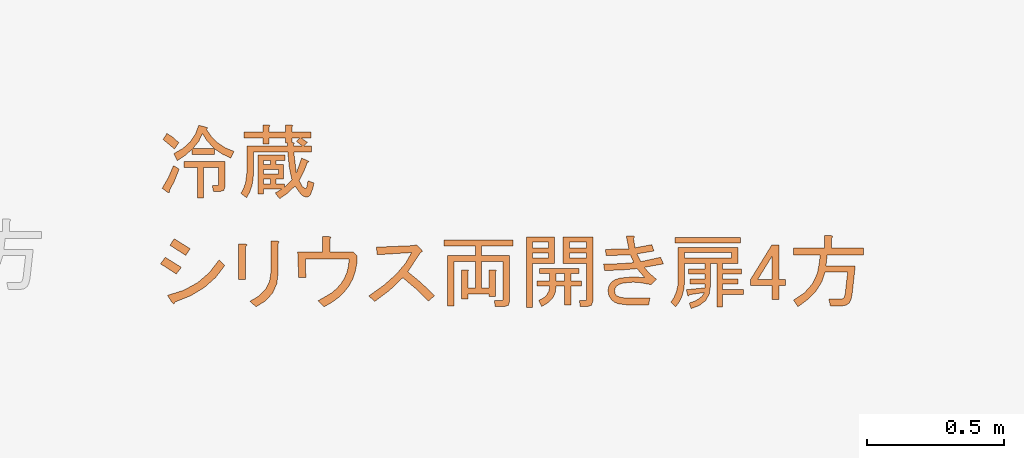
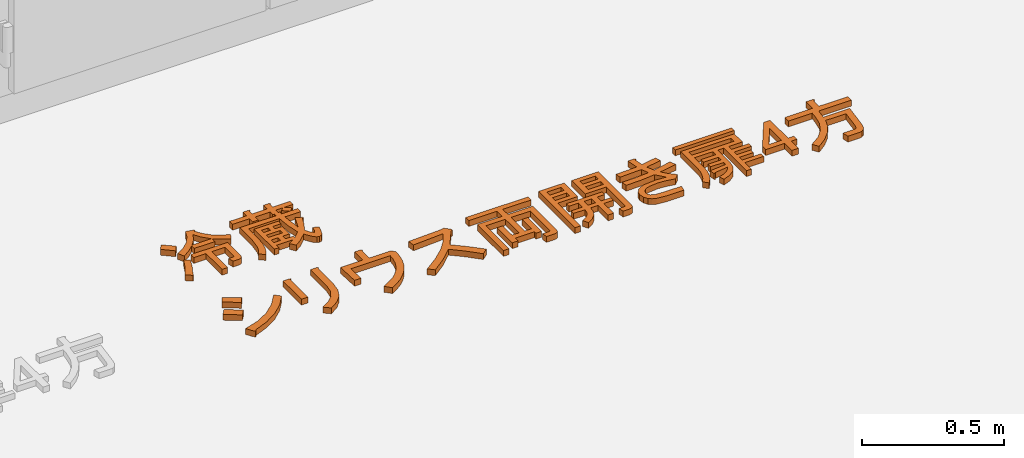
# One storey, part 12 of 16: 1 proxy.
"""IFC2X3 building model written with IfcOpenShell, lengths in millimetres."""

from ifc_helpers import new_model, entity, si_unit, converted_unit, derived_unit, direction, frame, frame_2d, origin, place, context, subcontext, project, spatial, polyline, rectangle, outline, extrude, type_object, element, save


model = new_model("IFC2X3")

# Units and contexts
model_context = context("Model", 3, precision=0.01, world=origin(), true_north=direction((6.123031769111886e-17, 1.0)))
body_context = subcontext(model_context, "Body", "Model", "MODEL_VIEW")
ifc_project = project(units=[si_unit("LENGTHUNIT", "METRE", prefix="MILLI"), si_unit("AREAUNIT", "SQUARE_METRE"), si_unit("VOLUMEUNIT", "CUBIC_METRE"), converted_unit("PLANEANGLEUNIT", "DEGREE", entity("IfcRatioMeasure", 0.017453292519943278), si_unit("PLANEANGLEUNIT", "RADIAN"), dimensions=[0, 0, 0, 0, 0, 0, 0]), si_unit("MASSUNIT", "GRAM", prefix="KILO"), derived_unit("MASSDENSITYUNIT", [(si_unit("MASSUNIT", "GRAM", prefix="KILO"), 1), (si_unit("LENGTHUNIT", "METRE"), -3)]), derived_unit("IONCONCENTRATIONUNIT", [(si_unit("MASSUNIT", "GRAM", prefix="KILO"), 1), (si_unit("LENGTHUNIT", "METRE"), -3)]), derived_unit("MOMENTOFINERTIAUNIT", [(si_unit("LENGTHUNIT", "METRE"), 4)]), si_unit("TIMEUNIT", "SECOND"), si_unit("FREQUENCYUNIT", "HERTZ"), si_unit("THERMODYNAMICTEMPERATUREUNIT", "DEGREE_CELSIUS"), derived_unit("THERMALTRANSMITTANCEUNIT", [(si_unit("MASSUNIT", "GRAM", prefix="KILO"), 1), (si_unit("THERMODYNAMICTEMPERATUREUNIT", "KELVIN"), -1), (si_unit("TIMEUNIT", "SECOND"), -3)]), derived_unit("THERMALCONDUCTANCEUNIT", [(si_unit("MASSUNIT", "GRAM", prefix="KILO"), 1), (si_unit("THERMODYNAMICTEMPERATUREUNIT", "KELVIN"), -1), (si_unit("TIMEUNIT", "SECOND"), -3), (si_unit("LENGTHUNIT", "METRE"), 1)]), derived_unit("VOLUMETRICFLOWRATEUNIT", [(si_unit("LENGTHUNIT", "METRE"), 3), (si_unit("TIMEUNIT", "SECOND"), -1)]), derived_unit("MASSFLOWRATEUNIT", [(si_unit("MASSUNIT", "GRAM", prefix="KILO"), 1), (si_unit("TIMEUNIT", "SECOND"), -1)]), derived_unit("ROTATIONALFREQUENCYUNIT", [(si_unit("TIMEUNIT", "SECOND"), -1)]), si_unit("ELECTRICCURRENTUNIT", "AMPERE"), si_unit("ELECTRICVOLTAGEUNIT", "VOLT"), si_unit("POWERUNIT", "WATT"), si_unit("FORCEUNIT", "NEWTON", prefix="KILO"), si_unit("ILLUMINANCEUNIT", "LUX"), si_unit("LUMINOUSFLUXUNIT", "LUMEN"), si_unit("LUMINOUSINTENSITYUNIT", "CANDELA"), derived_unit("USERDEFINED", [(si_unit("MASSUNIT", "GRAM", prefix="KILO"), -1), (si_unit("LENGTHUNIT", "METRE"), -2), (si_unit("TIMEUNIT", "SECOND"), 3), (si_unit("LUMINOUSFLUXUNIT", "LUMEN"), 1)]), derived_unit("USERDEFINED", [(si_unit("MASSUNIT", "GRAM", prefix="KILO"), 1), (si_unit("TIMEUNIT", "SECOND"), -3), (si_unit("LENGTHUNIT", "METRE"), 3), (si_unit("ELECTRICCURRENTUNIT", "AMPERE"), -2)]), derived_unit("SOUNDPOWERUNIT", [(si_unit("MASSUNIT", "GRAM", prefix="KILO"), 1), (si_unit("TIMEUNIT", "SECOND"), -3), (si_unit("LENGTHUNIT", "METRE"), 2)]), derived_unit("SOUNDPRESSUREUNIT", [(si_unit("MASSUNIT", "GRAM", prefix="KILO"), 1), (si_unit("LENGTHUNIT", "METRE"), -1), (si_unit("TIMEUNIT", "SECOND"), -2)]), derived_unit("LINEARVELOCITYUNIT", [(si_unit("LENGTHUNIT", "METRE"), 1), (si_unit("TIMEUNIT", "SECOND"), -1)]), si_unit("PRESSUREUNIT", "PASCAL"), derived_unit("USERDEFINED", [(si_unit("MASSUNIT", "GRAM", prefix="KILO"), 1), (si_unit("LENGTHUNIT", "METRE"), -2), (si_unit("TIMEUNIT", "SECOND"), -2)]), derived_unit("LINEARFORCEUNIT", [(si_unit("MASSUNIT", "GRAM", prefix="KILO"), 1), (si_unit("TIMEUNIT", "SECOND"), -2)]), derived_unit("PLANARFORCEUNIT", [(si_unit("MASSUNIT", "GRAM", prefix="KILO"), 1), (si_unit("LENGTHUNIT", "METRE"), -1), (si_unit("TIMEUNIT", "SECOND"), -2)]), derived_unit("SPECIFICHEATCAPACITYUNIT", [(si_unit("THERMODYNAMICTEMPERATUREUNIT", "KELVIN"), -1), (si_unit("LENGTHUNIT", "METRE"), 2), (si_unit("TIMEUNIT", "SECOND"), -2)]), derived_unit("HEATINGVALUEUNIT", [(si_unit("LENGTHUNIT", "METRE"), 2), (si_unit("TIMEUNIT", "SECOND"), -2)]), derived_unit("VAPORPERMEABILITYUNIT", [(si_unit("LENGTHUNIT", "METRE"), -1), (si_unit("TIMEUNIT", "SECOND"), 1)]), derived_unit("DYNAMICVISCOSITYUNIT", [(si_unit("MASSUNIT", "GRAM", prefix="KILO"), 1), (si_unit("TIMEUNIT", "SECOND"), -1), (si_unit("LENGTHUNIT", "METRE"), -1)]), derived_unit("THERMALEXPANSIONCOEFFICIENTUNIT", [(si_unit("THERMODYNAMICTEMPERATUREUNIT", "KELVIN"), -1)]), derived_unit("MODULUSOFELASTICITYUNIT", [(si_unit("MASSUNIT", "GRAM", prefix="KILO"), 1), (si_unit("LENGTHUNIT", "METRE"), -1), (si_unit("TIMEUNIT", "SECOND"), -2)]), derived_unit("ISOTHERMALMOISTURECAPACITYUNIT", [(si_unit("LENGTHUNIT", "METRE"), 3), (si_unit("MASSUNIT", "GRAM", prefix="KILO"), -1)]), derived_unit("MOISTUREDIFFUSIVITYUNIT", [(si_unit("TIMEUNIT", "SECOND"), -1), (si_unit("LENGTHUNIT", "METRE"), 2)])], contexts=[model_context])

# Site, building, storey
site_placement = place(None, origin())
site = spatial("IfcSite", under=ifc_project, at=site_placement, Name="Default", CompositionType="ELEMENT")
building_placement = place(site_placement, origin())
building = spatial("IfcBuilding", under=site, at=building_placement, CompositionType="ELEMENT")
storey_placement = place(building_placement, frame((0.0, 0.0, 500.0)))
storey = spatial("IfcBuildingStorey", under=building, at=storey_placement, Name="レベル 1", CompositionType="ELEMENT", Elevation=500.00000000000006)

# Proxy
building_element_proxy_type = type_object("IfcBuildingElementProxyType", Name="立体文字:200㎜\u3000MS Pゴシック", PredefinedType="NOTDEFINED")
proxy_placement = place(storey_placement, origin())
element("IfcBuildingElementProxy", 1, at=proxy_placement, inside=storey, type_object=building_element_proxy_type, Name="立体文字:200㎜\u3000MS Pゴシック", ObjectType="立体文字:200㎜\u3000MS Pゴシック", context=body_context, shape_type="SweptSolid", body=[
    extrude(outline(polyline([(-12.692928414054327, -26.506046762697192), (13.137935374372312, -26.506046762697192), (20.196666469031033, 26.894788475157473), (-7.833657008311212, 28.224694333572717), (-12.808016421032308, -2.107389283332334), (-12.692928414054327, -26.506046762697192)])), frame((-6026.052503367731, 18997.18463860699, 0.0), z_axis=(0.0, 0.0, 1.0), x_axis=(-0.5339929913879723, -0.8454889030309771, 0.0)), (0.0, 0.0, 1.0), 24.99999999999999),
    extrude(outline(polyline([(-86.15242915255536, -7.393505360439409), (-75.807303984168, -7.393505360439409), (-75.807303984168, 24.791328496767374), (-57.41597035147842, 24.791328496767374), (-57.41597035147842, -3.9451303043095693), (-4.540886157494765, -3.9451303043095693), (-4.540886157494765, 24.791328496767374), (11.551530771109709, 24.791328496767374), (11.551530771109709, -8.542963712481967), (29.942864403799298, -8.542963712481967), (29.942864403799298, 90.31045456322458), (-111.44051289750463, 90.31045456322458), (-111.44051289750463, 70.76966257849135), (-94.1986376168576, 70.76966257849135), (-94.1986376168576, 4.101078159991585), (-107.99213784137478, 27.09024520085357), (-128.6823881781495, 10.99782827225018), (-110.2910545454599, -15.727078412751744), (-82.70405409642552, -45.325630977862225), (-112.87733583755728, -66.5906104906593), (-120.42065627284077, -76.7920533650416), (-122.93509641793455, -86.7061316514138), (-120.77986200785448, -94.68049896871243), (-114.3141587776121, -101.36172563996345), (-88.45134585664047, -110.84475704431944), (-71.20947057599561, -114.29313210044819), (-63.16326211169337, -92.45342341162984), (-78.10622068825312, -90.15450670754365), (-88.45134585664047, -87.28086082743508), (-91.89972091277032, -83.25775659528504), (-84.71560621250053, -72.33790225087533), (-63.16326211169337, -60.26858955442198), (-30.40369907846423, -76.93573565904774), (3.5053223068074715, -90.15450670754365), (5.5168744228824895, -95.9017984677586), (9.252614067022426, -92.45342341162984), (19.59773923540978, -69.46425637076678), (-35.576261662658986, -49.923464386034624), (41.43744792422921, -40.727797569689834), (41.43744792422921, -105.0974652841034), (63.27715661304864, -105.0974652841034), (63.27715661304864, -76.36100648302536), (77.07065683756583, -90.15450670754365), (93.1630737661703, -67.16533966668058), (93.1630737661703, -103.94800693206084), (115.00278245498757, -103.94800693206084), (115.00278245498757, -33.83104745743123), (133.39411608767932, -33.83104745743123), (137.99194949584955, -37.56678710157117), (140.29086619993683, -32.681589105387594), (140.29086619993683, -10.841880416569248), (115.00278245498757, -10.841880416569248), (115.00278245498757, 48.929953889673), (133.39411608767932, 48.929953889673), (137.99194949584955, 45.19421424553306), (140.29086619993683, 50.07941224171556), (140.29086619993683, 71.91912093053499), (115.00278245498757, 71.91912093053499), (115.00278245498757, 140.88662205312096), (93.1630737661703, 140.88662205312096), (93.1630737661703, 71.91912093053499), (71.32336507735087, 71.91912093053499), (71.32336507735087, 48.929953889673), (93.1630737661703, 48.929953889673), (93.1630737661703, -10.841880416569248), (74.77174013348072, -10.841880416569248), (74.77174013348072, -17.738630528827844), (63.27715661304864, -17.738630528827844), (63.27715661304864, 129.39203853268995), (-24.081678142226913, 129.39203853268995), (-70.63474139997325, 135.13933029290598), (-90.89394485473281, 142.32344499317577), (-109.14159619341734, 152.38120557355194), (-125.23401312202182, 131.69095523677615), (-105.26217425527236, 120.62741859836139), (-83.27878327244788, 112.72489242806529), (-59.283840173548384, 107.98337672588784), (-33.27734495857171, 106.40287149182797), (41.43744792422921, 106.40287149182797), (41.43744792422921, -18.888088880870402), (-12.01236544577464, -23.77328687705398), (-59.71488705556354, -33.83104745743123), (-86.15242915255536, -7.393505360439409)]), holes=[polyline([(75.92119848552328, -38.42888086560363), (75.92119848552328, -33.83104745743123), (93.1630737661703, -33.83104745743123), (93.1630737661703, -62.567506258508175), (80.51903189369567, -49.923464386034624), (63.27715661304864, -72.91263142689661), (63.27715661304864, -39.57833921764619), (70.17390672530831, -39.57833921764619), (73.3349171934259, -43.31407886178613), (75.92119848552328, -38.42888086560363)]), polyline([(-4.540886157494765, 70.76966257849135), (11.551530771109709, 70.76966257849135), (11.551530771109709, 44.3321204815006), (-4.540886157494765, 44.3321204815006), (-4.540886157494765, 70.76966257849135)]), polyline([(-39.02463671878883, 70.76966257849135), (-22.932219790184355, 70.76966257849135), (-22.932219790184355, 15.595661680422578), (-39.02463671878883, 15.595661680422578), (-39.02463671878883, 70.76966257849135)]), polyline([(-75.807303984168, 70.76966257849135), (-57.41597035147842, 70.76966257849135), (-57.41597035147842, 44.3321204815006), (-75.807303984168, 44.3321204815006), (-75.807303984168, 70.76966257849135)])]), frame((-5619.181218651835, 18912.81492123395, 0.0), z_axis=(0.0, 0.0, 1.0), x_axis=(0.0, 1.0, 0.0)), (0.0, 0.0, 1.0), 25.0),
    extrude(outline(polyline([(-14.55545014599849, -34.35830877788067), (13.834076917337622, -34.35830877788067), (14.857961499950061, 33.86963659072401), (-14.136588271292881, 34.846980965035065), (-14.55545014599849, -34.35830877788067)])), frame((-5993.695250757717, 18607.70218252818, 0.0), z_axis=(0.0, 0.0, 1.0), x_axis=(-0.5263546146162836, -0.8502651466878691, 0.0)), (0.0, 0.0, 1.0), 25.0),
    extrude(outline(polyline([(-84.58097707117, 8.189890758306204), (-84.58097707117, -18.24765133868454), (45.307816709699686, -18.24765133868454), (45.307816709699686, 7.040432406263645), (42.43417082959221, 13.075088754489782), (36.112149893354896, 8.189890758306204), (-84.58097707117, 8.189890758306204)])), frame((-5762.050656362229, 18573.31422016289, 0.0), z_axis=(0.0, 0.0, -1.0), x_axis=(0.0, 1.0, 0.0)), (0.0, 0.0, -1.0), 25.0),
    extrude(outline(polyline([(-11.477428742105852, -36.07605005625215), (15.650762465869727, -36.07605005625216), (18.548657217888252, -33.22685941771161), (15.261129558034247, -27.79635076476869), (8.868714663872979, 11.398284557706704), (-3.1003212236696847, 57.19232725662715), (-27.257561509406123, 55.09805037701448), (-16.493952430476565, 9.486648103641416), (-11.477428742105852, -36.07605005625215)])), frame((-6028.286763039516, 18844.299493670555, 0.0), z_axis=(0.0, 0.0, 1.0), x_axis=(0.805055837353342, -0.5931990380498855, 0.0)), (0.0, 0.0, 1.0), 24.99999999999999),
    extrude(outline(polyline([(-21.439239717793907, -112.61303631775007), (6.8336974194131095, -112.61303631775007), (2.5927568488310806, -77.40037824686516), (-6.017637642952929, -45.786093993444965), (10.4320712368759, -54.01094843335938), (47.44391621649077, 20.01274152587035), (29.966100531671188, 28.75164936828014), (60.937818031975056, 46.35797840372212), (85.99792140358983, 66.27754775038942), (69.54821252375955, 87.35373725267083), (43.46000234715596, 64.89602923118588), (15.05855185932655, 48.41419201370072), (-15.656138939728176, 37.90822560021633), (-48.684070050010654, 33.378129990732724), (-48.2985299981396, 38.64717736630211), (-52.28244386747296, 39.03271741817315), (-73.35863336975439, 14.872207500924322), (-49.680048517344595, -10.059382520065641), (-33.13395462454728, -39.61745316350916), (-23.72035169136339, -73.80200442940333), (-21.439239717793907, -112.61303631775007)]), holes=[polyline([(26.881780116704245, 27.72354256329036), (-7.559797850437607, -41.15961337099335), (-20.66815961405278, -11.473029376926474), (-40.45921561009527, 13.844100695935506), (-9.230471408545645, 16.54288105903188), (26.881780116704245, 27.72354256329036)])]), frame((-5906.0849719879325, 18979.69131931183, 0.0), z_axis=(0.0, 0.0, 1.0), x_axis=(0.447213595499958, -0.894427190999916, 0.0)), (0.0, 0.0, 1.0), 24.999999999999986),
    extrude(outline(polyline([(-95.80016952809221, -47.900084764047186), (-95.80016952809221, -69.73979345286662), (53.62941623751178, -69.73979345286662), (53.62941623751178, 24.51579141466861), (49.606312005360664, 35.723010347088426), (37.53699930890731, 39.458749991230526), (12.248915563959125, 39.458749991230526), (7.651082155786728, 17.619041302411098), (26.042415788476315, 17.619041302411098), (29.490790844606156, 16.469582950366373), (30.640249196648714, 13.0212078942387), (30.640249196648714, -47.900084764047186), (-23.384293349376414, -47.900084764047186), (-23.384293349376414, 63.59737538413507), (-46.37346039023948, 63.59737538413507), (-46.37346039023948, -47.900084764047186), (-95.80016952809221, -47.900084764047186)])), frame((-5883.814216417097, 18850.028825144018, 0.0), z_axis=(0.0, 0.0, -1.0), x_axis=(1.0, 0.0, 0.0)), (0.0, 0.0, -1.0), 24.99999999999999),
    extrude(outline(polyline([(-24.760861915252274, -100.93244714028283), (5.213344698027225, -100.93244714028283), (14.007247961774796, -98.35378377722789), (10.414751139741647, -90.6177936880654), (21.875477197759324, -29.78778614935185), (23.197868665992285, 27.956641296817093), (14.381925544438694, 82.61548865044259), (-4.572352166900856, 134.18875591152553), (-33.1360078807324, 127.84127686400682), (-12.975047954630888, 72.94550103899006), (-4.858870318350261, 16.51795509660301), (-8.78747497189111, -41.441360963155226), (-24.760861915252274, -100.93244714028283)])), frame((-5940.93990180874, 18464.55869712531, 0.0), z_axis=(0.0, 0.0, 1.0), x_axis=(0.5368754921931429, -0.8436614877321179, 0.0)), (0.0, 0.0, 1.0), 25.0),
    extrude(outline(polyline([(12.171942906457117, 32.40035729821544), (-27.915417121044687, 27.37147700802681), (-61.968120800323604, 12.284836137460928), (-89.98616813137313, -12.859565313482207), (-111.96955911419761, -48.0617273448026), (-92.42876712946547, -71.05089438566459), (-72.88797514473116, -37.78844332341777), (-48.74934975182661, -13.865341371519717), (-20.012890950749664, 0.718411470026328), (13.32140125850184, 5.962815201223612), (128.26723646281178, 5.962815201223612), (128.26723646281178, 30.101440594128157), (124.81886140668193, 36.42346153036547), (119.07156964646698, 32.40035729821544), (12.171942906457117, 32.40035729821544)])), frame((-5667.866912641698, 18501.84938393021, 0.0), z_axis=(0.0, 0.0, -1.0), x_axis=(0.0, 1.0, 0.0)), (0.0, 0.0, -1.0), 25.0),
    extrude(outline(polyline([(-12.927911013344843, -34.30740209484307), (16.736132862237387, -34.30740209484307), (13.261965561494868, 33.83972572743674), (-17.07018741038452, 34.7750784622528), (-12.927911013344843, -34.30740209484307)])), frame((-6027.029542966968, 18539.88413975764, 0.0), z_axis=(0.0, 0.0, 1.0), x_axis=(-0.5812381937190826, -0.8137334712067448, 0.0)), (0.0, 0.0, 1.0), 25.0),
    extrude(outline(polyline([(-22.97401156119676, -96.89434063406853), (-3.4670564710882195, -96.89434063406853), (57.492178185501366, -35.93510597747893), (91.62934959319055, -70.07227738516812), (93.05173173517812, -77.59058299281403), (100.57003734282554, -74.13622636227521), (116.82583325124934, -57.880430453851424), (76.18634348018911, -17.240940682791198), (140.39673731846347, 46.96945315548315), (72.12239450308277, 110.36705719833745), (53.428229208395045, 91.67289190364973), (103.00840672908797, 45.34387356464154), (-9.9693748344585, -67.63390799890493), (-25.869575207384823, -48.88894334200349), (-38.21382022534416, -28.823195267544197), (-47.002109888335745, -7.436663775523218), (-52.23444419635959, 15.270651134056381), (-53.91082314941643, 39.29874946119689), (-52.031246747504, 64.6476312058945), (-37.604227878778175, 119.30774494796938), (-68.49024010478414, 119.30774494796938), (-77.20233072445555, 88.01533782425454), (-81.7996730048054, 57.94211539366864), (-82.2822669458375, 29.08807765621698), (-78.65011254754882, 1.4532246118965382), (-70.90320980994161, -24.962443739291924), (-59.04155873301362, -50.158927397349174), (-43.06515931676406, -74.13622636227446), (-22.97401156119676, -96.89434063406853)])), frame((-5431.712233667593, 18522.673053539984, 0.0), z_axis=(0.0, 0.0, 1.0), x_axis=(-0.7071067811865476, 0.7071067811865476, 0.0)), (0.0, 0.0, 1.0), 24.999999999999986),
    extrude(outline(polyline([(5.525091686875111, 11.308020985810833), (-1.6526031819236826, 74.77664998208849), (-13.95159515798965, 140.91623239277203), (-42.89874219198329, 132.4070002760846), (-29.96943672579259, 67.22864593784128), (-22.8232575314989, 7.904328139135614), (-87.34766162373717, -7.171982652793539), (-151.01326358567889, -30.371458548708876), (-146.64834266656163, -59.35012125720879), (-83.07334826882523, -34.71668217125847), (-25.486332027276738, -19.21490977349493), (26.112706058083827, -12.844804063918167), (71.72376598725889, -15.606365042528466), (-3.7090009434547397, -115.96803050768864), (17.469532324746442, -133.97923848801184), (95.39203754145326, -25.628349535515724), (105.83948364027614, -15.984553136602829), (100.54485032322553, 9.480111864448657), (96.59357263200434, 15.507484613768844), (89.37254371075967, 11.308020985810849), (5.525091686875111, 11.308020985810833)])), frame((-5174.789510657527, 18519.05020712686, 0.0), z_axis=(0.0, 0.0, -1.0), x_axis=(0.548356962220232, 0.8362443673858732, 0.0)), (0.0, 0.0, -1.0), 25.0),
    extrude(outline(polyline([(-1.5599791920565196, 115.64372063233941), (113.38585601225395, 115.64372063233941), (113.38585601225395, 137.48342932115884), (-139.4949814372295, 137.48342932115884), (-139.4949814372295, 115.64372063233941), (-24.549146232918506, 115.64372063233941), (-24.549146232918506, 80.01051171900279), (-125.70148121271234, 80.01051171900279), (-125.70148121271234, -103.90282460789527), (-102.71231417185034, -103.90282460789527), (-102.71231417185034, 58.17080303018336), (-24.549146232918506, 58.17080303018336), (-24.549146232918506, -37.23424018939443), (-52.136146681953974, -37.23424018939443), (-52.136146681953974, 21.38813576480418), (-48.400407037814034, 25.985969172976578), (-53.28560503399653, 28.284885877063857), (-75.12531372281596, 28.284885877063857), (-75.12531372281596, -78.61474086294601), (-52.136146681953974, -78.61474086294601), (-52.136146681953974, -59.073948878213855), (26.027021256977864, -59.073948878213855), (26.027021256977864, -69.41907404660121), (49.016188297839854, -69.41907404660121), (49.016188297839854, 21.38813576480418), (52.75192794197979, 25.985969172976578), (47.86672994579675, 28.284885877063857), (26.027021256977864, 28.284885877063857), (26.027021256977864, -37.23424018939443), (-1.5599791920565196, -37.23424018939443), (-1.5599791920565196, 58.17080303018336), (76.60318874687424, 58.17080303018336), (76.60318874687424, -78.61474086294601), (75.45373039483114, -82.06311591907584), (72.00535533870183, -83.2125742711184), (44.418354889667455, -83.2125742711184), (47.86672994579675, -105.05228295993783), (83.49993885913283, -105.05228295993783), (95.56925155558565, -101.02917872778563), (99.59235578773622, -88.95986603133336), (99.59235578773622, 80.01051171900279), (-1.5599791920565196, 80.01051171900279), (-1.5599791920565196, 115.64372063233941)])), frame((-4891.310502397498, 18496.081566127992, 0.0)), (0.0, 0.0, 1.0), 25.0),
    extrude(outline(polyline([(-168.70511813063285, -69.76327998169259), (-73.30007491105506, -69.76327998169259), (-73.30007491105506, -27.23332095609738), (-73.30007491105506, 15.296638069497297), (57.738177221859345, 15.296638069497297), (61.186552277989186, 14.147179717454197), (62.336010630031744, 10.698804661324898), (62.336010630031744, -11.140904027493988), (84.17571931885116, -7.692528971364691), (84.17571931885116, 19.894471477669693), (79.57788591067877, 33.687971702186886), (65.78438568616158, 38.285805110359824), (-168.70511813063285, 38.285805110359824), (-168.70511813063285, -69.76327998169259)]), holes=[polyline([(-91.69140854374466, -46.77411294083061), (-111.2322005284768, -46.77411294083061), (-111.2322005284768, 15.296638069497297), (-91.69140854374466, 15.296638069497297), (-91.69140854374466, -46.77411294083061)]), polyline([(-129.6235341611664, 15.296638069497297), (-129.6235341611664, -46.77411294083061), (-150.31378449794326, -46.77411294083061), (-150.31378449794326, 15.296638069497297), (-129.6235341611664, 15.296638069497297)])]), frame((-4525.397488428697, 18475.205002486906, 0.0), z_axis=(0.0, 0.0, 1.0), x_axis=(0.0, -1.0, 0.0)), (0.0, 0.0, 1.0), 25.0),
    extrude(outline(polyline([(-70.58116380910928, -3.907053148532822), (-70.58116380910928, -22.298386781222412), (-24.60282972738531, -22.298386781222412), (-24.60282972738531, -49.885387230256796), (-62.53495534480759, -49.885387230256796), (-62.53495534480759, -68.27672086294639), (82.29679701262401, -68.27672086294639), (82.29679701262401, -49.885387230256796), (52.410879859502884, -49.885387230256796), (52.410879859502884, -22.298386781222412), (91.49246382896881, -22.298386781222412), (91.49246382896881, -3.907053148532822), (52.410879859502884, -3.907053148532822), (52.410879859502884, 65.06044797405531), (29.4217128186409, 65.06044797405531), (29.4217128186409, -3.907053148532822), (-1.6136626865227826, -3.907053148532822), (-3.9844205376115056, 19.728684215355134), (-13.395610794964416, 40.05972881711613), (-29.847233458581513, 57.08608065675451), (-53.339288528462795, 70.80773973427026), (-64.83387204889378, 48.96803104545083), (-47.23279103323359, 40.05972881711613), (-34.66059030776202, 28.27778070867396), (-27.11726987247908, 13.622186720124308), (-24.60282972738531, -3.907053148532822), (-70.58116380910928, -3.907053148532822)]), holes=[polyline([(29.4217128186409, -22.298386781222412), (29.4217128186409, -49.885387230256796), (-1.6136626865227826, -49.885387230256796), (-1.6136626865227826, -22.298386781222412), (29.4217128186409, -22.298386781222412)])]), frame((-4619.984647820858, 18461.837022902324, 0.0), z_axis=(0.0, 0.0, -1.0), x_axis=(1.0, 0.0, 0.0)), (0.0, 0.0, -1.0), 25.0),
    extrude(outline(polyline([(21.839708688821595, -61.30444544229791), (117.24475190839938, -61.30444544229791), (117.24475190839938, 42.14680624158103), (-139.08446059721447, 42.14680624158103), (-139.08446059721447, 19.157639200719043), (21.839708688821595, 19.157639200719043), (21.839708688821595, -61.30444544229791)]), holes=[polyline([(98.85341827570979, -38.315278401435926), (78.16316793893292, -38.315278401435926), (78.16316793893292, 19.157639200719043), (98.85341827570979, 19.157639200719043), (98.85341827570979, -38.315278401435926)]), polyline([(40.23104232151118, 19.157639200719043), (59.771834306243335, 19.157639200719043), (59.771834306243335, -38.315278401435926), (40.23104232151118, -38.315278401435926), (40.23104232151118, 19.157639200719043)])]), frame((-4687.500589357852, 18526.66536870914, 0.0), z_axis=(0.0, 0.0, 1.0), x_axis=(0.0, 1.0, 0.0)), (0.0, 0.0, 1.0), 25.0),
    extrude(outline(polyline([(42.16317553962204, 67.93889097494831), (105.0901152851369, 67.93889097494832), (100.93277992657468, 91.93805418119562), (38.95068912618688, 90.61526565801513), (38.950689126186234, 125.57467662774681), (44.714267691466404, 130.44064869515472), (39.32862870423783, 134.83419628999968), (14.384616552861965, 138.9915316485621), (15.707405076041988, 90.99320523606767), (-68.57312082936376, 102.70933215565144), (-70.08487914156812, 79.65501789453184), (17.786072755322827, 68.50580034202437), (25.533834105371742, 38.081664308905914), (-27.85013129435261, 42.90039392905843), (-84.06864352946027, 51.68748911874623), (-84.63555289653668, 27.310386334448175), (-23.4093412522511, 18.853988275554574), (33.28159545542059, 14.649410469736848), (56.14693992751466, -22.955577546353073), (15.896374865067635, -12.751208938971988), (-34.79477104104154, -9.2552678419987), (-53.089408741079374, -12.39689058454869), (-66.68342293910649, -18.798242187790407), (-78.30506496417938, -30.84506623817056), (-84.06864352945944, -46.19886159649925), (-83.92691618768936, -66.32414412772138), (-76.32088217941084, -83.61487982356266), (-66.87239272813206, -93.34682395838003), (-53.6445074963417, -101.37803999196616), (-15.850549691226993, -112.33828775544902), (53.31239309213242, -123.86544488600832), (62.005003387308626, -99.67731189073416), (-7.157939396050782, -88.15015476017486), (-40.51110715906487, -80.26066606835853), (-56.668024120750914, -70.57596438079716), (-60.44741990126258, -61.78886919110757), (-60.44741990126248, -51.301045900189), (-56.998721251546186, -42.84464784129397), (-49.676141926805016, -35.616553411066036), (-39.89695534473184, -31.128520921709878), (-26.43285787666, -29.002610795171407), (11.550069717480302, -31.83715763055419), (39.23414380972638, -38.78179737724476), (74.66597925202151, -51.67898547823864), (97.15338414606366, -35.616553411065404), (75.9887677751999, -10.53081391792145), (60.11530549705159, 14.838380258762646), (131.35691595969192, 15.783229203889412), (125.12091292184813, 41.29415072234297), (51.04475562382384, 37.32578515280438), (42.16317553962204, 67.93889097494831)])), frame((-4356.607929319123, 18509.04273534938, 0.0), z_axis=(0.0, 0.0, 1.0), x_axis=(0.9863939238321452, 0.16439898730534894, 0.0)), (0.0, 0.0, 1.0), 25.0),
    extrude(rectangle(XDim=239.08733722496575, YDim=18.39133363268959, at=frame_2d((-5.400124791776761e-13, 0.0), x_axis=(1.0, 0.0))), frame((-4067.513406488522, 18632.415537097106, 0.0), z_axis=(0.0, 0.0, 1.0), x_axis=(-1.0, 0.0, 0.0)), (0.0, 0.0, 1.0), 25.0),
    extrude(outline(polyline([(45.656903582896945, -73.01948813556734), (67.4663423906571, -73.01948813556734), (65.92150714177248, -40.16902093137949), (56.56162298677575, -13.952258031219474), (39.38668992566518, 5.630800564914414), (14.396707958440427, 18.580154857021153), (-67.38868757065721, 45.84195336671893), (-59.75538398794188, 68.74186411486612), (91.82021572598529, 18.21666421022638), (97.99955672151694, 36.754687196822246), (54.38067910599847, 51.29431306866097), (78.73455244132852, 124.35593307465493), (61.287001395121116, 130.17178342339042), (36.93312805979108, 57.110163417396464), (18.395105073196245, 63.28950441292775), (36.56963741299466, 117.81310143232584), (19.12208636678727, 123.62895178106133), (0.9475540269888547, 69.10535476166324), (-16.49999701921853, 74.92120511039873), (5.672932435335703, 141.4399934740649), (-11.774618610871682, 147.25584382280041), (-33.94754806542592, 80.73705545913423), (-53.57604299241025, 87.279887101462), (-35.765001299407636, 140.71301218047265), (-90.28859831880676, 158.88754452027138), (-158.98833056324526, -47.211652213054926), (-48.85066458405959, -83.92420753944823), (-26.88219861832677, -92.98875554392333), (-7.867094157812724, -104.5523017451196), (8.19464879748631, -118.6148461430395), (21.30303024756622, -135.17638873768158), (43.11246905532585, -124.27166933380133), (29.36797897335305, -104.84763789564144), (11.761400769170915, -88.37696796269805), (-9.707265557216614, -74.85965953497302), (-35.03802000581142, -64.29571261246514), (-97.19492060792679, -43.576745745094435), (-73.56802856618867, 27.303930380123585), (-53.93953363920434, 20.76109873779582), (-73.20453791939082, -37.03391410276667), (-55.756986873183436, -42.84976445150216), (-36.49198259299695, 14.945248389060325), (-19.044431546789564, 9.129398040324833), (-36.12849194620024, -42.122783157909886), (-18.68094089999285, -47.938633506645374), (-1.596880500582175, 3.3135476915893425), (11.488782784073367, -1.0483400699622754), (-3.414333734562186, -67.567128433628), (18.758595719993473, -70.11156296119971), (21.30303024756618, -67.02189246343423), (17.304633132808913, -63.56873131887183), (27.118880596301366, -8.681643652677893), (36.31973759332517, -19.92713553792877), (42.47636042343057, -34.39860691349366), (45.58874908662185, -52.09605777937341), (45.656903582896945, -73.01948813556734)]), holes=[polyline([(-80.1108602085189, 131.26225536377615), (-60.48236528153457, 124.71942372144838), (-114.64247165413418, -37.76089539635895), (-134.2709665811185, -31.218063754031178), (-80.1108602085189, 131.26225536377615)])]), frame((-4080.497061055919, 18470.07805651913, 0.0), z_axis=(0.0, 0.0, 1.0), x_axis=(0.316227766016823, -0.9486832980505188, 0.0)), (0.0, 0.0, 1.0), 25.0),
    extrude(outline(polyline([(-103.50936350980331, -69.26732231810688), (43.558431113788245, -69.26732231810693), (63.143513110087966, -57.22878567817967), (22.81441536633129, 8.381239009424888), (65.90159575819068, 34.86601961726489), (52.0572786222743, 57.38886391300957), (8.970098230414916, 30.90408330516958), (-3.6703652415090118, 51.46841940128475), (-22.276193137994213, 40.03180959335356), (-9.635729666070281, 19.467473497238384), (-117.35368064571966, -46.74447802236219), (-103.50936350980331, -69.26732231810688)]), holes=[polyline([(-67.27696181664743, -46.99602953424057), (4.208587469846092, -3.055370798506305), (31.29529490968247, -47.12180529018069), (-67.27696181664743, -46.99602953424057)])]), frame((-3829.3665351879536, 18490.71867115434, 0.0), z_axis=(0.0, 0.0, 1.0), x_axis=(-0.5236612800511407, -0.851926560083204, 0.0)), (0.0, 0.0, 1.0), 24.999999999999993),
    extrude(outline(polyline([(31.25406221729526, -14.78595342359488), (43.39215042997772, 91.4223184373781), (-60.695218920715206, 91.74861113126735), (-79.11444149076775, 90.02129918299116), (-92.73716146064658, 84.70884626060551), (-101.56337883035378, 75.81125236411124), (-105.59309359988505, 63.32851749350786), (-110.81377670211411, 17.647540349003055), (-86.34182466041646, 9.066042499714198), (-80.72959032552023, 58.17309293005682), (-75.69652552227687, 64.2502943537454), (-62.424570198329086, 66.49355662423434), (18.561276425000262, 66.49355662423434), (9.16404684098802, -15.732202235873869), (-27.433757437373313, -23.40823785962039), (-62.44088483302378, -39.94312012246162), (-95.85733534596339, -65.33684902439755), (-127.6831089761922, -99.58942456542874), (-105.52783506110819, -118.31862519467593), (-74.98072092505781, -81.9675797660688), (-39.2006877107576, -56.77166580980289), (1.8122645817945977, -42.73088332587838), (48.05813595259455, -39.84523231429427), (68.7450927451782, -41.05251528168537), (57.78165823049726, -136.98256728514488), (82.90619565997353, -139.8539429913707), (95.69686926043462, -27.9355489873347), (141.3778464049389, -33.15623208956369), (144.2492221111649, -8.031694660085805), (141.50836348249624, -1.644515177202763), (135.24354375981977, -5.845533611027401), (98.69876204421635, -1.6689871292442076), (111.88098687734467, 113.67548016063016), (86.75644944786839, 116.54685586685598), (71.74698552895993, -14.78595342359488), (31.25406221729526, -14.78595342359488)])), frame((-3625.3249888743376, 18505.429125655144, 0.0), z_axis=(0.0, 0.0, -1.0), x_axis=(0.11354659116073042, 0.9935326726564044, 0.0)), (0.0, 0.0, -1.0), 24.999999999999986),
])

save(model, "model.ifc")
